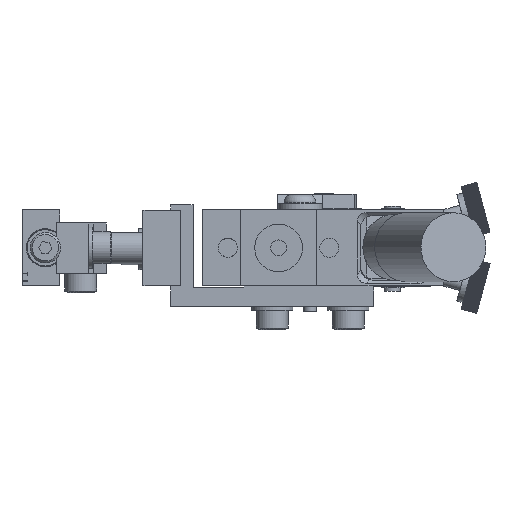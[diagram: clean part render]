
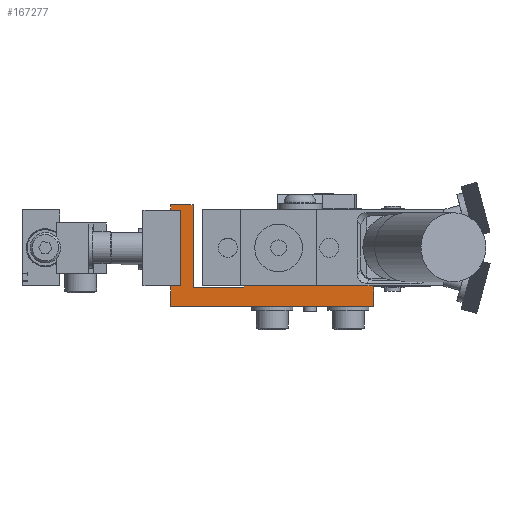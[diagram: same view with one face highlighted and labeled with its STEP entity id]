
A CAD part, left-side view. The second image highlights one B-rep face of the part: STEP entity #167277.
In plain terms, the highlighted planar face has unit normal (-1, 0, 0).
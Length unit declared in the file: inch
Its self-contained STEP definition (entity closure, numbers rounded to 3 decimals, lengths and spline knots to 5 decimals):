
#9552=CARTESIAN_POINT('',(-0.4995,1.8755,0.));
#9553=VERTEX_POINT('',#9552);
#9619=CARTESIAN_POINT('',(-0.4995,1.8755,0.745));
#9620=VERTEX_POINT('',#9619);
#10301=CARTESIAN_POINT('',(-0.4995,1.8755,0.));
#10302=DIRECTION('',(0.0,0.0,1.0));
#10303=VECTOR('',#10302,0.745);
#10304=LINE('',#10301,#10303);
#10305=EDGE_CURVE('',#9553,#9620,#10304,.T.);
#166827=CARTESIAN_POINT('',(-0.4995,1.1555,0.));
#166828=VERTEX_POINT('',#166827);
#166835=CARTESIAN_POINT('',(-0.4995,-0.1245,0.));
#166836=VERTEX_POINT('',#166835);
#166837=CARTESIAN_POINT('',(-0.4995,1.1555,0.));
#166838=DIRECTION('',(0.0,-1.0,0.0));
#166839=VECTOR('',#166838,1.28);
#166840=LINE('',#166837,#166839);
#166841=EDGE_CURVE('',#166828,#166836,#166840,.T.);
#167208=CARTESIAN_POINT('',(-0.4995,0.76361,-0.10189));
#167209=DIRECTION('',(1.0,0.0,0.0));
#167210=DIRECTION('',(0.0,-1.0,0.0));
#167211=AXIS2_PLACEMENT_3D('',#167208,#167209,#167210);
#167212=PLANE('',#167211);
#167213=CARTESIAN_POINT('',(-0.4995,1.8755,-0.2));
#167214=VERTEX_POINT('',#167213);
#167215=CARTESIAN_POINT('',(-0.4995,-0.1245,-0.2));
#167216=VERTEX_POINT('',#167215);
#167217=CARTESIAN_POINT('',(-0.4995,1.8755,-0.2));
#167218=DIRECTION('',(0.0,-1.0,0.0));
#167219=VECTOR('',#167218,2.);
#167220=LINE('',#167217,#167219);
#167221=EDGE_CURVE('',#167214,#167216,#167220,.T.);
#167222=ORIENTED_EDGE('',*,*,#167221,.T.);
#167223=CARTESIAN_POINT('',(-0.4995,-0.1245,-0.2));
#167224=DIRECTION('',(0.0,0.0,1.0));
#167225=VECTOR('',#167224,0.2);
#167226=LINE('',#167223,#167225);
#167227=EDGE_CURVE('',#167216,#166836,#167226,.T.);
#167228=ORIENTED_EDGE('',*,*,#167227,.T.);
#167229=ORIENTED_EDGE('',*,*,#166841,.F.);
#167230=CARTESIAN_POINT('',(-0.4995,1.1555,-0.015));
#167231=VERTEX_POINT('',#167230);
#167232=CARTESIAN_POINT('',(-0.4995,1.1555,0.));
#167233=DIRECTION('',(0.0,0.0,-1.0));
#167234=VECTOR('',#167233,0.015);
#167235=LINE('',#167232,#167234);
#167236=EDGE_CURVE('',#166828,#167231,#167235,.T.);
#167237=ORIENTED_EDGE('',*,*,#167236,.T.);
#167238=CARTESIAN_POINT('',(-0.4995,1.6555,-0.015));
#167239=VERTEX_POINT('',#167238);
#167240=CARTESIAN_POINT('',(-0.4995,1.1555,-0.015));
#167241=DIRECTION('',(0.0,1.0,0.0));
#167242=VECTOR('',#167241,0.5);
#167243=LINE('',#167240,#167242);
#167244=EDGE_CURVE('',#167231,#167239,#167243,.T.);
#167245=ORIENTED_EDGE('',*,*,#167244,.T.);
#167246=CARTESIAN_POINT('',(-0.4995,1.6555,0.8));
#167247=VERTEX_POINT('',#167246);
#167248=CARTESIAN_POINT('',(-0.4995,1.6555,-0.015));
#167249=DIRECTION('',(0.0,0.0,1.0));
#167250=VECTOR('',#167249,0.815);
#167251=LINE('',#167248,#167250);
#167252=EDGE_CURVE('',#167239,#167247,#167251,.T.);
#167253=ORIENTED_EDGE('',*,*,#167252,.T.);
#167254=CARTESIAN_POINT('',(-0.4995,1.8755,0.8));
#167255=VERTEX_POINT('',#167254);
#167256=CARTESIAN_POINT('',(-0.4995,1.6555,0.8));
#167257=DIRECTION('',(0.0,1.0,0.0));
#167258=VECTOR('',#167257,0.22);
#167259=LINE('',#167256,#167258);
#167260=EDGE_CURVE('',#167247,#167255,#167259,.T.);
#167261=ORIENTED_EDGE('',*,*,#167260,.T.);
#167262=CARTESIAN_POINT('',(-0.4995,1.8755,0.8));
#167263=DIRECTION('',(0.0,0.0,-1.0));
#167264=VECTOR('',#167263,0.055);
#167265=LINE('',#167262,#167264);
#167266=EDGE_CURVE('',#167255,#9620,#167265,.T.);
#167267=ORIENTED_EDGE('',*,*,#167266,.T.);
#167268=ORIENTED_EDGE('',*,*,#10305,.F.);
#167269=CARTESIAN_POINT('',(-0.4995,1.8755,0.));
#167270=DIRECTION('',(0.0,0.0,-1.0));
#167271=VECTOR('',#167270,0.2);
#167272=LINE('',#167269,#167271);
#167273=EDGE_CURVE('',#9553,#167214,#167272,.T.);
#167274=ORIENTED_EDGE('',*,*,#167273,.T.);
#167275=EDGE_LOOP('',(#167222,#167228,#167229,#167237,#167245,#167253,#167261,#167267,#167268,#167274));
#167276=FACE_OUTER_BOUND('',#167275,.T.);
#167277=ADVANCED_FACE('',(#167276),#167212,.F.);
